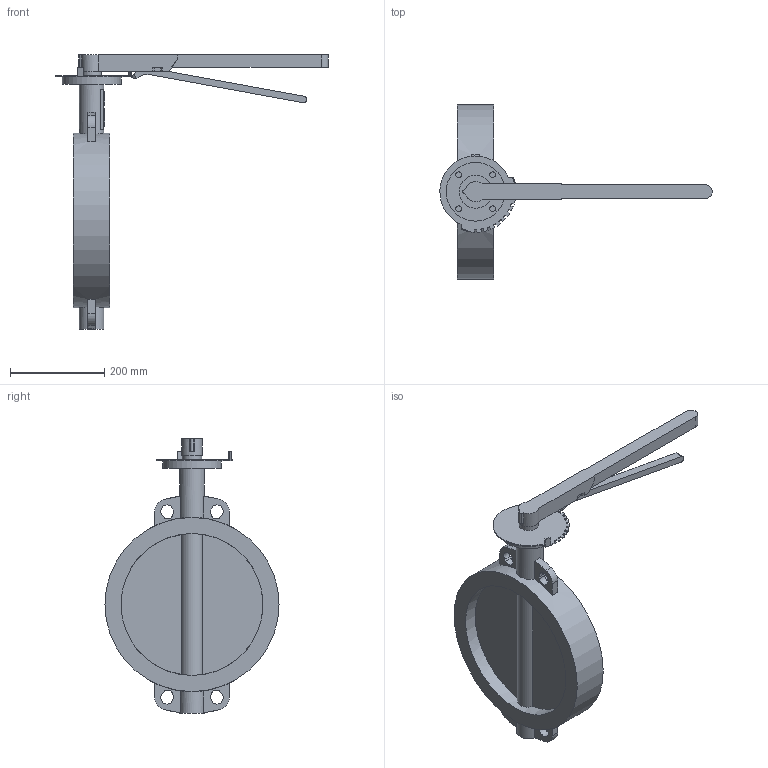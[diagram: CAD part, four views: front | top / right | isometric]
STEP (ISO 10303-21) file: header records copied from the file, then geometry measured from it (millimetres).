
FILE_DESCRIPTION(('STEP AP203'), '1');
FILE_NAME('Çàòâîð 017W.ZS DN300 PN10_16 ðóêîÿòêà', '', ('UNSPECIFIED'), ('UNSPECIFIED'), 'ASCON STEP Converter 1.6', 'ASCON Math Kernel', '');
FILE_SCHEMA(('CONFIG_CONTROL_DESIGN'));
Length unit declared in the file: millimetre
Bounding box: 578.47 x 370 x 583 mm (x, y, z)
Volume: 625568.9 mm3; surface area: 573413 mm2
Topology: 1 solids, 2 shells, 917 faces, 2729 edges, 1763 vertices
Faces by surface type: cylinder 678, plane 239
Full cylindrical faces by diameter (mm): 12 x4, 31.6 x1, 41 x1, 52 x2, 70 x1, 125 x1, 301.5 x2, 370 x1
Entity records: 39456 total; most frequent: CARTESIAN_POINT 6158, DIRECTION 5963, ORIENTED_EDGE 5356, EDGE_CURVE 2717, AXIS2_PLACEMENT_3D 2348, VERTEX_POINT 1763, CIRCLE 1430, LINE 1267
